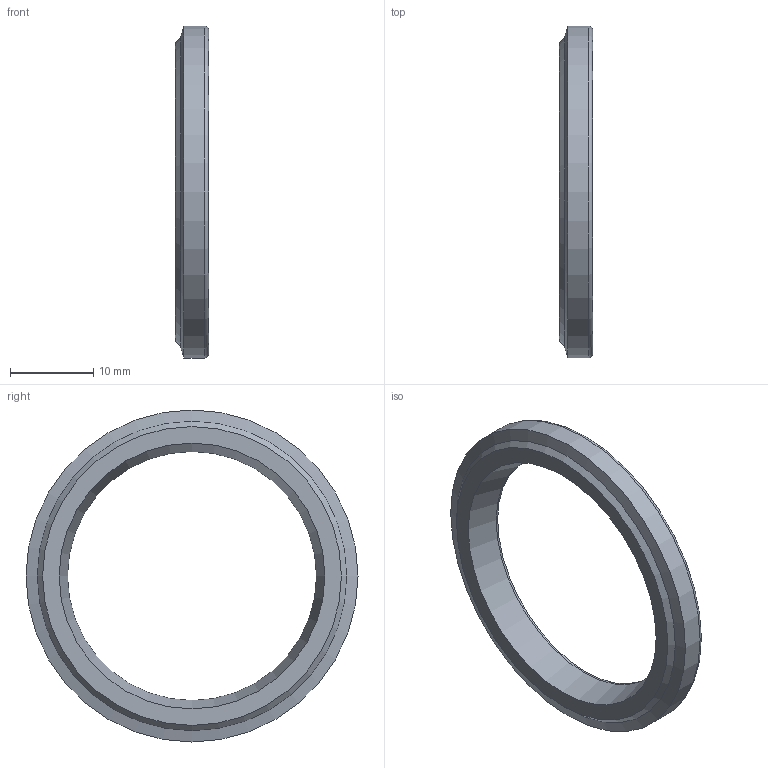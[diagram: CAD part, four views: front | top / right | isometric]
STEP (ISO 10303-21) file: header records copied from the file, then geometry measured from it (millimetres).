
FILE_DESCRIPTION(('STEP AP203'),'1');
FILE_NAME('D:/Desktop/BOSCH CAD/CBX/CBX-30.step','2022-02-17T07:20:30',(' '),(' '),'Spatial InterOp 3D',' ',' ');
FILE_SCHEMA(('CONFIG_CONTROL_DESIGN'));
Length unit declared in the file: millimetre
Products named in the file (1): 1
Bounding box: 4 x 40 x 40 mm (x, y, z)
Volume: 1814.5 mm3; surface area: 1921.7 mm2
Topology: 1 solids, 1 shells, 12 faces, 20 edges, 12 vertices
Faces by surface type: cone 4, plane 4, cylinder 3, torus 1
Full cylindrical faces by diameter (mm): 30 x1, 32.2 x1, 40 x1
Entity records: 292 total; most frequent: DIRECTION 50, CARTESIAN_POINT 37, AXIS2_PLACEMENT_3D 25, EDGE_LOOP 24, ORIENTED_EDGE 24, FACE_OUTER_BOUND 16, ADVANCED_FACE 12, EDGE_CURVE 12
